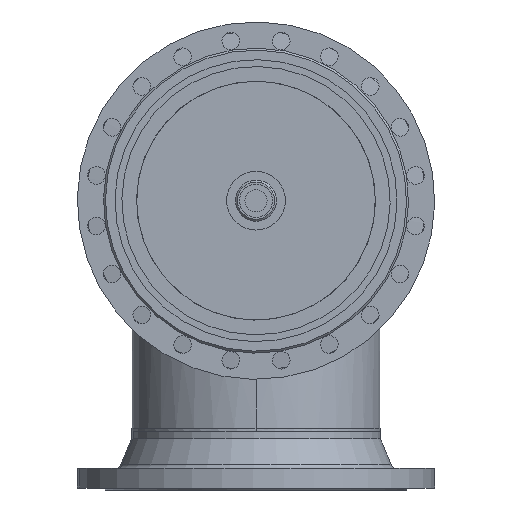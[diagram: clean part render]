
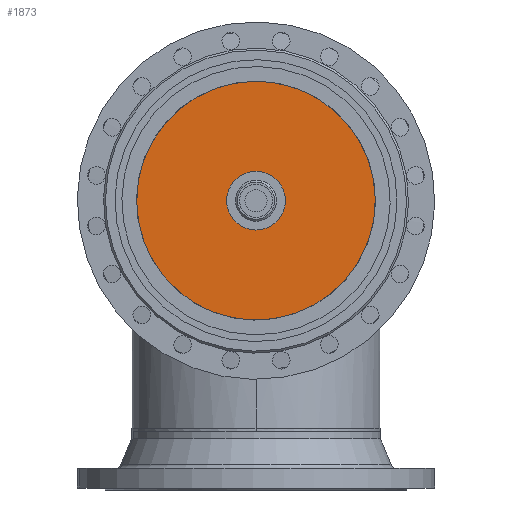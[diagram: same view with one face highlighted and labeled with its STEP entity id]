
A CAD part, front view. The second image highlights one B-rep face of the part: STEP entity #1873.
In plain terms, the highlighted planar face has unit normal (0, -1, 0).
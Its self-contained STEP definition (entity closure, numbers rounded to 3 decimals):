
#41 = ORIENTED_EDGE ( 'NONE', *, *, #9703, .F. ) ;
#560 = EDGE_CURVE ( 'NONE', #9484, #7317, #9709, .T. ) ;
#934 = ORIENTED_EDGE ( 'NONE', *, *, #560, .F. ) ;
#1624 = EDGE_LOOP ( 'NONE', ( #934, #41 ) ) ;
#1873 = ADVANCED_FACE ( 'NONE', ( #10763, #10764 ), #10765, .T. ) ;
#3026 = CARTESIAN_POINT ( 'NONE',  ( 0., -80., -60. ) ) ;
#3201 = CIRCLE ( 'NONE', #3202, 60. ) ;
#3202 = AXIS2_PLACEMENT_3D ( 'NONE', #3203, #3204, #3205 ) ;
#3203 = CARTESIAN_POINT ( 'NONE',  ( 0., -80., 0. ) ) ;
#3204 = DIRECTION ( 'NONE',  ( 0., -1., 0. ) ) ;
#3205 = DIRECTION ( 'NONE',  ( 0., 0., -1. ) ) ;
#4134 = CARTESIAN_POINT ( 'NONE',  ( 0., -80., 60. ) ) ;
#5012 = CARTESIAN_POINT ( 'NONE',  ( 0., -80., 260. ) ) ;
#5250 = CARTESIAN_POINT ( 'NONE',  ( 0., -80., -260. ) ) ;
#5449 = CIRCLE ( 'NONE', #5452, 260. ) ;
#5452 = AXIS2_PLACEMENT_3D ( 'NONE', #5453, #5454, #5455 ) ;
#5453 = CARTESIAN_POINT ( 'NONE',  ( 0., -80., 0. ) ) ;
#5454 = DIRECTION ( 'NONE',  ( 0., -1., 0. ) ) ;
#5455 = DIRECTION ( 'NONE',  ( 0., 0., -1. ) ) ;
#7317 = VERTEX_POINT ( 'NONE', #4134 ) ;
#9032 = EDGE_CURVE ( 'NONE', #11454, #11678, #12492, .T. ) ;
#9484 = VERTEX_POINT ( 'NONE', #3026 ) ;
#9703 = EDGE_CURVE ( 'NONE', #7317, #9484, #3201, .T. ) ;
#9709 = CIRCLE ( 'NONE', #9710, 60. ) ;
#9710 = AXIS2_PLACEMENT_3D ( 'NONE', #9711, #9712, #9713 ) ;
#9711 = CARTESIAN_POINT ( 'NONE',  ( 0., -80., 0. ) ) ;
#9712 = DIRECTION ( 'NONE',  ( 0., -1., 0. ) ) ;
#9713 = DIRECTION ( 'NONE',  ( 0., 0., -1. ) ) ;
#10763 = FACE_BOUND ( 'NONE', #1624, .T. ) ;
#10764 = FACE_OUTER_BOUND ( 'NONE', #12974, .T. ) ;
#10765 = PLANE ( 'NONE',  #10766 ) ;
#10766 = AXIS2_PLACEMENT_3D ( 'NONE', #10767, #10769, #10770 ) ;
#10767 = CARTESIAN_POINT ( 'NONE',  ( 0., -80., 0. ) ) ;
#10769 = DIRECTION ( 'NONE',  ( 0., -1., 0. ) ) ;
#10770 = DIRECTION ( 'NONE',  ( 0., 0., -1. ) ) ;
#11454 = VERTEX_POINT ( 'NONE', #5012 ) ;
#11678 = VERTEX_POINT ( 'NONE', #5250 ) ;
#11902 = EDGE_CURVE ( 'NONE', #11678, #11454, #5449, .T. ) ;
#11903 = ORIENTED_EDGE ( 'NONE', *, *, #11902, .T. ) ;
#12440 = ORIENTED_EDGE ( 'NONE', *, *, #9032, .T. ) ;
#12492 = CIRCLE ( 'NONE', #12493, 260. ) ;
#12493 = AXIS2_PLACEMENT_3D ( 'NONE', #12495, #12496, #12497 ) ;
#12495 = CARTESIAN_POINT ( 'NONE',  ( 0., -80., 0. ) ) ;
#12496 = DIRECTION ( 'NONE',  ( 0., -1., 0. ) ) ;
#12497 = DIRECTION ( 'NONE',  ( 0., 0., -1. ) ) ;
#12974 = EDGE_LOOP ( 'NONE', ( #12440, #11903 ) ) ;
